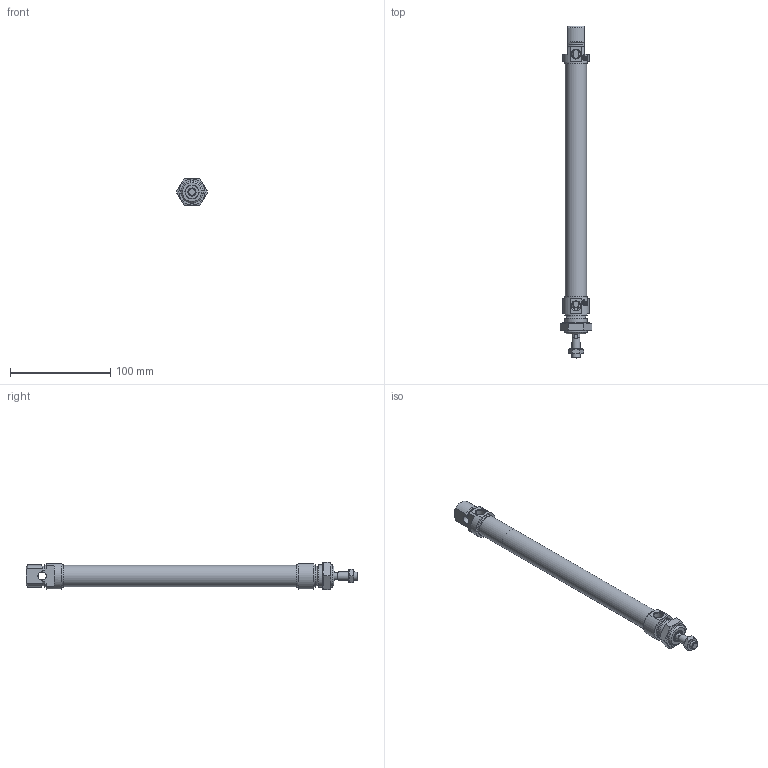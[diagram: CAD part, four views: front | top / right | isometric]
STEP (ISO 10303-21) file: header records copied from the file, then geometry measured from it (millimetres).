
FILE_DESCRIPTION(/* description */ ('Unknown'),/* implementation_level */ '2;1');
FILE_NAME(/* name */ 'RDM 20_200',/* time_stamp */ '2024-08-28T10:55:44+02:00',/* author */ ('Unknown'),/* organization */ ('Unknown'),/* preprocessor_version */ 'ST-DEVELOPER v16.7',/* originating_system */ 'Solid Edge',/* authorisation */ 'Unknown');
FILE_SCHEMA (('AUTOMOTIVE_DESIGN {1 0 10303 214 3 1 1}'));
Length unit declared in the file: millimetre
Products named in the file (7): RDM 20_200; Kit_2; Profilrohr; Kolbenstange; Kit_1; Mutter_1; Mutter_2
Assembly tree (6 placements, depth 2):
  RDM 20_200
    Kit_2
    Profilrohr
    Kolbenstange
    Kit_1
    Mutter_1
    Mutter_2
Bounding box: 31.18 x 331 x 27 mm (x, y, z)
Volume: 62773.6 mm3; surface area: 52791.4 mm2
Topology: 6 solids, 10 shells, 201 faces, 445 edges, 282 vertices
Faces by surface type: plane 77, cone 58, cylinder 55, torus 9, bspline 2
Full cylindrical faces by diameter (mm): 1.75 x2, 1.8 x1, 3.4 x2, 3.5 x2, 6 x1, 6.647 x1, 8 x4, 8.5 x2, 8.56 x2, 8.566 x2, 9.1 x1, 9.5 x1, 12 x2, 12.1 x1, 14.1 x1, 14.2 x1, 19.7 x1, 20 x2, 20.376 x1, 21.27 x1, 22 x2, 22.2 x2
Entity records: 6574 total; most frequent: CARTESIAN_POINT 1153, DIRECTION 844, ORIENTED_EDGE 670, AXIS2_PLACEMENT_3D 375, EDGE_CURVE 335, FACE_BOUND 318, EDGE_LOOP 313, VERTEX_POINT 259
